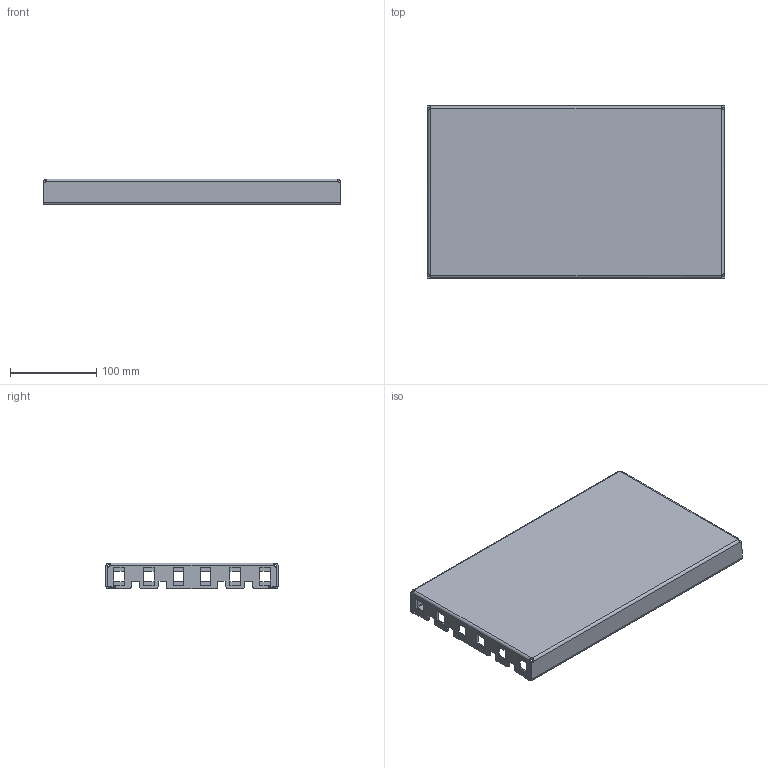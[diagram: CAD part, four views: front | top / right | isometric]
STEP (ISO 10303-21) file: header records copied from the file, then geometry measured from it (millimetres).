
FILE_DESCRIPTION (( 'STEP AP203' ), '1' );
FILE_NAME ('EUZE-T0500D.STEP', '2020-03-09T14:46:58', ( '' ), ( '' ), 'SwSTEP 2.0', 'SolidWorks 2019', '' );
FILE_SCHEMA (( 'CONFIG_CONTROL_DESIGN' ));
Length unit declared in the file: millimetre
Products named in the file (1): EUZE-T0500D
Bounding box: 344 x 199 x 30 mm (x, y, z)
Volume: 198355.9 mm3; surface area: 203567.3 mm2
Topology: 1 solids, 1 shells, 238 faces, 660 edges, 424 vertices
Faces by surface type: plane 174, cylinder 56, bspline 8
Entity records: 7843 total; most frequent: CARTESIAN_POINT 1653, ORIENTED_EDGE 1320, DIRECTION 1186, EDGE_CURVE 660, VECTOR 532, LINE 532, VERTEX_POINT 424, AXIS2_PLACEMENT_3D 327
